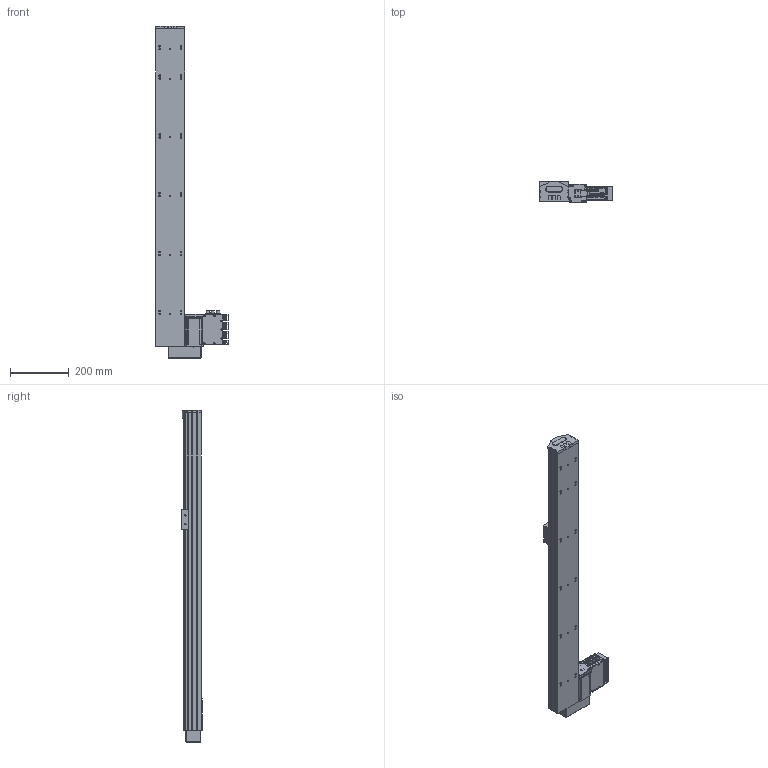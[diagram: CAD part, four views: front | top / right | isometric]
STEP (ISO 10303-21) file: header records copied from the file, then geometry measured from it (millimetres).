
FILE_DESCRIPTION (( 'STEP AP203' ), '1' );
FILE_NAME ('S10 TSN BR S900.STEP', '2012-09-03T09:02:53', ( 'Conseil Régional Haute-Normandie' ), ( 'Conseil Régional Haute-Normandie' ), 'SwSTEP 2.0', 'SolidWorks 2010', '' );
FILE_SCHEMA (( 'CONFIG_CONTROL_DESIGN' ));
Length unit declared in the file: millimetre
Products named in the file (25): T_X2_00F4_X0_le fond_3; Assem1_7; Moteur 60BLDC90A_3; Couvercle_3; Colonnette ronde_3; embout_modifié; T_X2_00F4_X0_le Arri_X2_00E8_X0_re_5; piece_plastique remplie_Default; remplir_Default; S10 TSN BR S900; axe1087; T_X2_00F4_X0_le contre le moteur_5; BU41 Carte Alimentation P05_3; Colonnette_3; BU45 Carte d''axe A11_5; Connecteur rond D10 3cts_5; Connecteur rond D12 4cts_5; Sub D 9cts 90_X2_00B_X0__3; Radiateur profil_X2_00E9_X0_ 100x25_3; T_X2_00F4_X0_le lat_X2_00E9_X0_rale_5; Vis TF 3 torkx_1_1; palette tbn; renvoi LH_Default; Pièce2_Default; Vis TF 3 torkx
Assembly tree (55 placements, depth 3):
  S10 TSN BR S900
    Vis TF 3 torkx  x7
    palette tbn
    axe1087
    renvoi LH_Default
    piece_plastique remplie_Default
      remplir_Default  x3
      embout_modifié
      Pièce2_Default
    Assem1_7
      T_X2_00F4_X0_le contre le moteur_5
      Sub D 9cts 90_X2_00B_X0__3
      BU41 Carte Alimentation P05_3
      Moteur 60BLDC90A_3
      Couvercle_3
      T_X2_00F4_X0_le lat_X2_00E9_X0_rale_5  x2
      Vis TF 3 torkx_1_1  x21
      Colonnette_3  x2
      Connecteur rond D10 3cts_5  x2
      BU45 Carte d''axe A11_5
      Connecteur rond D12 4cts_5
      Colonnette ronde_3
      T_X2_00F4_X0_le fond_3
      Radiateur profil_X2_00E9_X0_ 100x25_3
      T_X2_00F4_X0_le Arri_X2_00E8_X0_re_5
Bounding box: 248 x 69.7 x 1129.5 mm (x, y, z)
Volume: 6306014 mm3; surface area: 779235.1 mm2
Topology: 53 solids, 53 shells, 1988 faces, 5052 edges, 3294 vertices
Faces by surface type: plane 932, cylinder 893, cone 156, bspline 4, torus 3
Entity records: 39303 total; most frequent: CARTESIAN_POINT 6634, DIRECTION 6415, ORIENTED_EDGE 5812, EDGE_CURVE 2906, AXIS2_PLACEMENT_3D 2364, VERTEX_POINT 1906, LINE 1687, VECTOR 1687
